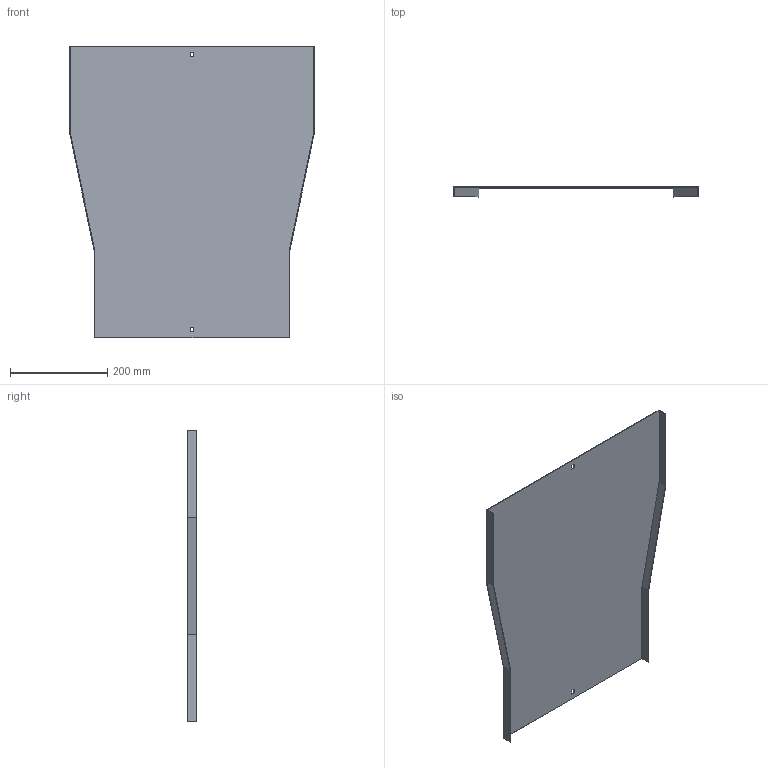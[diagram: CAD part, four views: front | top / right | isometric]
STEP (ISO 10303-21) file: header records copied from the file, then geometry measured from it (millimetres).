
FILE_DESCRIPTION (( 'STEP AP214' ), '1' );
FILE_NAME ('B2X20N4R500X.step', '2025-09-02T15:44:04', ( '' ), ( '' ), 'SwSTEP 2.0', 'SolidWorks 2023', '' );
FILE_SCHEMA (( 'AUTOMOTIVE_DESIGN' ));
Length unit declared in the file: millimetre
Products named in the file (1): B2X20N4R500X
Bounding box: 503 x 20 x 600 mm (x, y, z)
Volume: 441110.5 mm3; surface area: 591525.8 mm2
Topology: 1 solids, 1 shells, 26 faces, 72 edges, 48 vertices
Faces by surface type: plane 26
Entity records: 847 total; most frequent: CARTESIAN_POINT 147, ORIENTED_EDGE 144, DIRECTION 126, LINE 72, VECTOR 72, EDGE_CURVE 72, VERTEX_POINT 48, EDGE_LOOP 30
